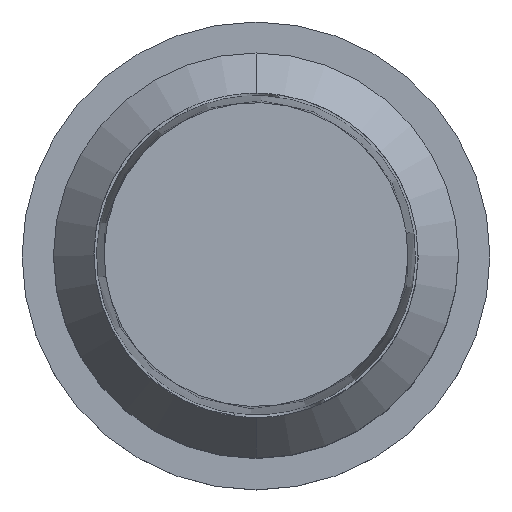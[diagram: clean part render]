
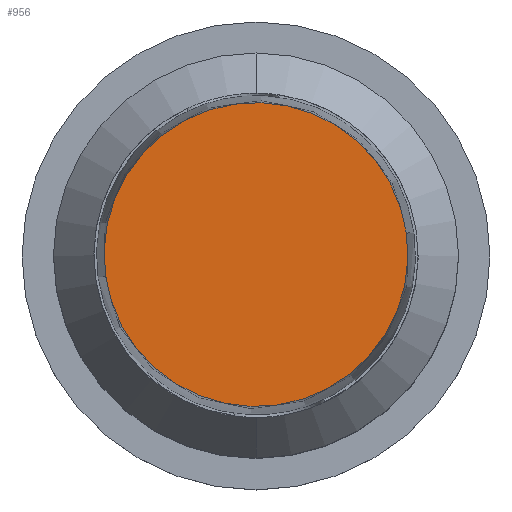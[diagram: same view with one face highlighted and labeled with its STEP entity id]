
A CAD part, top view. The second image highlights one B-rep face of the part: STEP entity #956.
In plain terms, the highlighted planar face has unit normal (0, 0, 1) as drawn and (0, 1, 0) by its records, which use the part's own axes.
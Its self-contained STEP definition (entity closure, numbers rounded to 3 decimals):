
#108 = VERTEX_POINT ( 'NONE', #245 ) ;
#137 = DIRECTION ( 'NONE',  ( 0., 1., 0. ) ) ;
#234 = CARTESIAN_POINT ( 'NONE',  ( 0., 3.5, 0. ) ) ;
#245 = CARTESIAN_POINT ( 'NONE',  ( 0., 3.5, -1.5 ) ) ;
#289 = AXIS2_PLACEMENT_3D ( 'NONE', #634, #137, #1556 ) ;
#385 = DIRECTION ( 'NONE',  ( 0., 0., -1. ) ) ;
#634 = CARTESIAN_POINT ( 'NONE',  ( 0., 3.5, 0. ) ) ;
#689 = CIRCLE ( 'NONE', #1179, 1.5 ) ;
#749 = DIRECTION ( 'NONE',  ( 0., -1., 0. ) ) ;
#844 = PLANE ( 'NONE',  #289 ) ;
#926 = DIRECTION ( 'NONE',  ( 0., 0., -1. ) ) ;
#956 = ADVANCED_FACE ( 'NONE', ( #1961 ), #844, .T. ) ;
#1000 = ORIENTED_EDGE ( 'NONE', *, *, #1597, .F. ) ;
#1179 = AXIS2_PLACEMENT_3D ( 'NONE', #234, #2184, #926 ) ;
#1410 = CARTESIAN_POINT ( 'NONE',  ( 0., 3.5, 1.5 ) ) ;
#1422 = EDGE_CURVE ( 'NONE', #2171, #108, #689, .T. ) ;
#1556 = DIRECTION ( 'NONE',  ( 0., 0., 1. ) ) ;
#1583 = CIRCLE ( 'NONE', #2074, 1.5 ) ;
#1597 = EDGE_CURVE ( 'NONE', #108, #2171, #1583, .T. ) ;
#1635 = CARTESIAN_POINT ( 'NONE',  ( 0., 3.5, 0. ) ) ;
#1734 = EDGE_LOOP ( 'NONE', ( #1000, #2272 ) ) ;
#1961 = FACE_OUTER_BOUND ( 'NONE', #1734, .T. ) ;
#2074 = AXIS2_PLACEMENT_3D ( 'NONE', #1635, #749, #385 ) ;
#2171 = VERTEX_POINT ( 'NONE', #1410 ) ;
#2184 = DIRECTION ( 'NONE',  ( 0., -1., 0. ) ) ;
#2272 = ORIENTED_EDGE ( 'NONE', *, *, #1422, .F. ) ;
